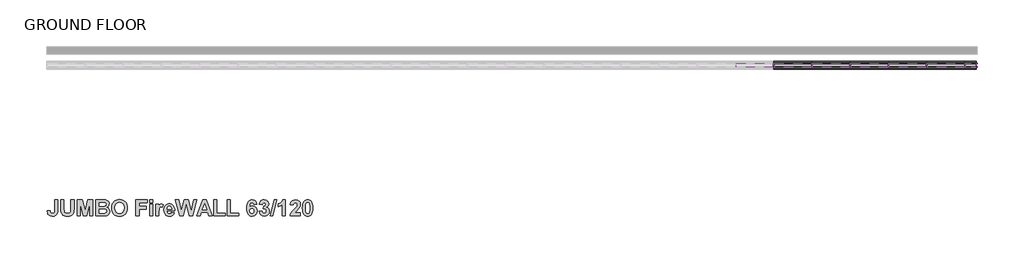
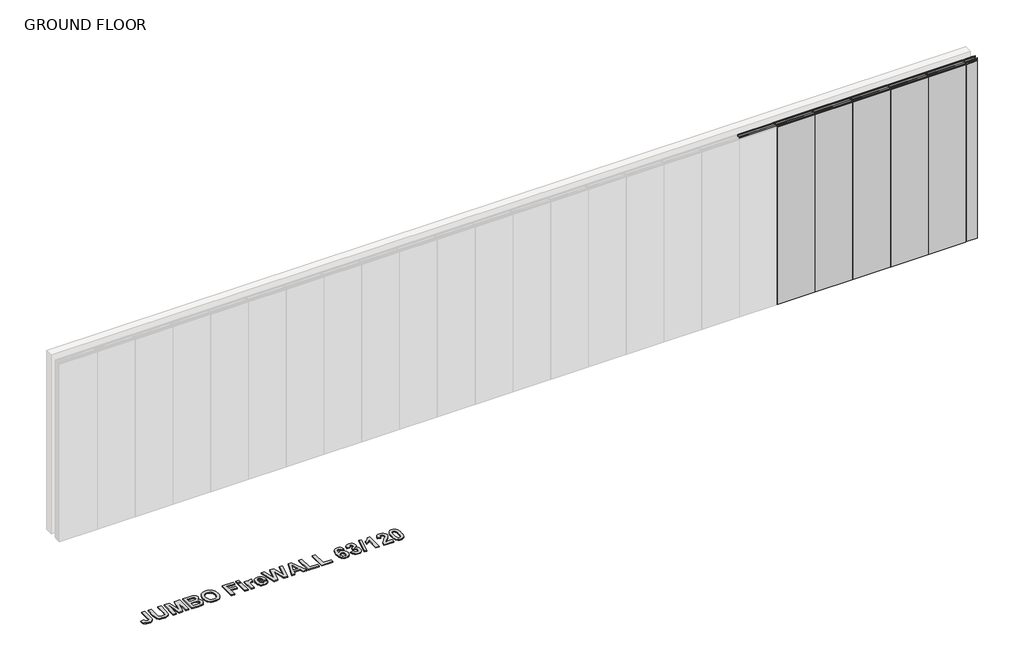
# One storey, part 2 of 2: 20 members, 6 plates, 1 proxy.
"""IFC4 building model written with IfcOpenShell, lengths in millimetres."""

import ifcopenshell
import ifcopenshell.guid

model = None  # the IFC model being written
_history = None  # IfcOwnerHistory: only IFC2X3 demands one
_inside = {}  # id of a spatial element -> (the spatial element, [elements in it])
_under = {}  # id of a project, library or spatial element -> (it, [spatial elements below it])
_declared = {}  # id of a project -> (the project, [libraries it declares])
_typed = {}  # id of a type object -> (the type object, [elements of that type])
_made_of = {}  # id of a material, layer set ... -> (it, [elements and type objects made of it])


def new_model(schema):
    """Start an empty IFC model of exactly this schema.

    Asked for "IFC4X3", IfcOpenShell would pick the latest addendum, in which some entities
    have other attributes; the version numbers below select the first issue.
    IFC2X3 requires an IfcOwnerHistory on every rooted entity: one is made here for all.
    """
    global model, _history
    if schema == "IFC4X3":
        model = ifcopenshell.file(schema_version=(4, 3, 0, 0))
    else:
        model = ifcopenshell.file(schema=schema)
    _inside.clear()
    _under.clear()
    _declared.clear()
    _typed.clear()
    _made_of.clear()
    _history = None
    if model.schema == "IFC2X3":
        org = make("IfcOrganization", Name="unknown")
        user = make(
            "IfcPersonAndOrganization",
            ThePerson=make("IfcPerson", FamilyName="unknown"),
            TheOrganization=org,
        )
        app = make(
            "IfcApplication",
            ApplicationDeveloper=org,
            Version="unknown",
            ApplicationFullName="unknown",
            ApplicationIdentifier="unknown",
        )
        _history = make(
            "IfcOwnerHistory",
            OwningUser=user,
            OwningApplication=app,
            ChangeAction="ADDED",
            CreationDate=0,
        )
    return model


def make(cls, **values):
    """One entity of the class cls with the attributes given. An attribute that is None is left unset."""
    return model.create_entity(
        cls, **{name: value for name, value in values.items() if value is not None}
    )


def rooted(cls, **values):
    """An entity with a GlobalId (a new one), such as an element, a storey or a relation."""
    return make(cls, GlobalId=ifcopenshell.guid.new(), OwnerHistory=_history, **values)


def si_unit(unit_type, name, prefix=None):
    """IfcSIUnit, for example si_unit("LENGTHUNIT", "METRE", prefix="MILLI")."""
    return make("IfcSIUnit", UnitType=unit_type, Prefix=prefix, Name=name)


def assignment(units):
    """IfcUnitAssignment: the units of a project."""
    return None if units is None else make("IfcUnitAssignment", Units=units)


def point(xyz):
    """IfcCartesianPoint."""
    return None if xyz is None else make("IfcCartesianPoint", Coordinates=xyz)


def direction(xyz):
    """IfcDirection."""
    return None if xyz is None else make("IfcDirection", DirectionRatios=xyz)


def frame(location, z_axis=None, x_axis=None):
    """IfcAxis2Placement3D, a coordinate frame: its origin and axes. An axis left out is left unset."""
    return make(
        "IfcAxis2Placement3D",
        Location=point(location),
        Axis=direction(z_axis),
        RefDirection=direction(x_axis),
    )


def origin():
    """The frame at (0, 0, 0) with its axes left unset."""
    return frame((0.0, 0.0, 0.0))


def origin_with_axes():
    """The frame at (0, 0, 0) with the z axis (0, 0, 1) and the x axis (1, 0, 0) written out."""
    return frame((0.0, 0.0, 0.0), z_axis=(0.0, 0.0, 1.0), x_axis=(1.0, 0.0, 0.0))


def place(relative_to, where):
    """IfcLocalPlacement: puts the frame where relative to a parent placement (None: the world)."""
    return make(
        "IfcLocalPlacement", PlacementRelTo=relative_to, RelativePlacement=where
    )


def context(
    kind, dimensions, precision=None, world=None, true_north=None, identifier=None
):
    """IfcGeometricRepresentationContext, for example the 3D "Model" context."""
    return make(
        "IfcGeometricRepresentationContext",
        ContextIdentifier=identifier,
        ContextType=kind,
        CoordinateSpaceDimension=dimensions,
        Precision=precision,
        WorldCoordinateSystem=world,
        TrueNorth=true_north,
    )


def project(units=None, contexts=None):
    """IfcProject with its units and contexts."""
    return rooted(
        "IfcProject",
        Name="project",
        RepresentationContexts=contexts,
        UnitsInContext=assignment(units),
    )


def spatial(cls, under=None, at=None, **own):
    """A site, building, storey or space (cls), placed at a placement, below another one or the project."""
    s = rooted(cls, ObjectPlacement=at, **own)
    if under is not None:
        _under.setdefault(under.id(), (under, []))[1].append(s)
    return s


def polyline(points):
    """IfcPolyline through the points."""
    return make("IfcPolyline", Points=[point(p) for p in points])


def outline(outer, holes=None, kind="AREA"):
    """IfcArbitraryClosedProfileDef: a profile drawn as a closed curve; with holes, ...WithVoids."""
    if holes is None:
        return make("IfcArbitraryClosedProfileDef", ProfileType=kind, OuterCurve=outer)
    return make(
        "IfcArbitraryProfileDefWithVoids",
        ProfileType=kind,
        OuterCurve=outer,
        InnerCurves=holes,
    )


def extrude(swept, where, along, depth):
    """IfcExtrudedAreaSolid: the profile swept, set in the frame where, extruded along a direction by depth."""
    return make(
        "IfcExtrudedAreaSolid",
        SweptArea=swept,
        Position=where,
        ExtrudedDirection=direction(along),
        Depth=depth,
    )


def shape(context_of_items, identifier, shape_type, items):
    """IfcShapeRepresentation: the items that make up one representation, for example the "Body"."""
    return make(
        "IfcShapeRepresentation",
        ContextOfItems=context_of_items,
        RepresentationIdentifier=identifier,
        RepresentationType=shape_type,
        Items=items,
    )


def source(mapping_origin, context_of_items, identifier, shape_type, items):
    """IfcRepresentationMap: a shape defined once, which mapped items show again and again."""
    return make(
        "IfcRepresentationMap",
        MappingOrigin=mapping_origin,
        MappedRepresentation=shape(context_of_items, identifier, shape_type, items),
    )


def transform(
    local_origin,
    x_axis=None,
    y_axis=None,
    z_axis=None,
    scale=None,
    scale2=None,
    scale3=None,
    uniform=True,
):
    """IfcCartesianTransformationOperator3D, or its non-uniform kind. x_axis, y_axis, z_axis: its Axis1, 2, 3."""
    if uniform:
        return make(
            "IfcCartesianTransformationOperator3D",
            Axis1=direction(x_axis),
            Axis2=direction(y_axis),
            LocalOrigin=point(local_origin),
            Scale=scale,
            Axis3=direction(z_axis),
        )
    return make(
        "IfcCartesianTransformationOperator3DnonUniform",
        Axis1=direction(x_axis),
        Axis2=direction(y_axis),
        LocalOrigin=point(local_origin),
        Scale=scale,
        Axis3=direction(z_axis),
        Scale2=scale2,
        Scale3=scale3,
    )


def mapped(mapping_source, mapping_target):
    """IfcMappedItem: shows the shape of a source again, moved by a transform."""
    return make(
        "IfcMappedItem", MappingSource=mapping_source, MappingTarget=mapping_target
    )


def made_of(thing, what):
    """Note that an element or type object is made of a material, layer set ...; save() writes the relation."""
    if what is not None:
        _made_of.setdefault(what.id(), (what, []))[1].append(thing)
    return thing


def element(
    cls,
    number,
    at=None,
    inside=None,
    cuts=None,
    type_object=None,
    material=None,
    context=None,
    identifier="Body",
    shape_type=None,
    held_by="IfcProductDefinitionShape",
    body=None,
    shapes=None,
    **own,
):
    """One element of the class cls, such as IfcWall. Its Tag is "e" and its number.

    at: its placement. inside: the storey or other place that contains it. cuts: it is an
    opening in that element (IfcRelVoidsElement). A single representation is given by context,
    identifier, shape_type and body (its items); several are given by shapes. held_by: the class
    of the entity that holds the representations. save() writes the other relations.
    """
    e = rooted(cls, Tag="e%d" % number, ObjectPlacement=at, **own)
    if body is not None:
        shapes = [shape(context, identifier, shape_type, body)]
    if shapes is not None:
        e.Representation = make(held_by, Representations=shapes)
    if inside is not None:
        _inside.setdefault(inside.id(), (inside, []))[1].append(e)
    if cuts is not None:
        rooted(
            "IfcRelVoidsElement", RelatingBuildingElement=cuts, RelatedOpeningElement=e
        )
    if type_object is not None:
        _typed.setdefault(type_object.id(), (type_object, []))[1].append(e)
    return made_of(e, material)


def aggregate(whole, parts):
    """IfcRelAggregates: a whole, such as a stair, and the parts it consists of."""
    return rooted("IfcRelAggregates", RelatingObject=whole, RelatedObjects=parts)


def save(model, path):
    """Write the relations noted so far, then the file.

    IfcRelAggregates (storeys below a building ...), IfcRelContainedInSpatialStructure (elements
    in a storey), IfcRelDefinesByType, IfcRelAssociatesMaterial and IfcRelDeclares: one each for
    every whole, place, type object, material and project.
    """
    for whole, parts in _under.values():
        aggregate(whole, parts)
    for where, things in _inside.values():
        rooted(
            "IfcRelContainedInSpatialStructure",
            RelatedElements=things,
            RelatingStructure=where,
        )
    for kind, things in _typed.values():
        rooted("IfcRelDefinesByType", RelatedObjects=things, RelatingType=kind)
    for what, things in _made_of.values():
        rooted("IfcRelAssociatesMaterial", RelatedObjects=things, RelatingMaterial=what)
    for by, libraries in _declared.values():
        rooted("IfcRelDeclares", RelatingContext=by, RelatedDefinitions=libraries)
    model.write(path)


def rectangular_mullion_stud_mullion_63mm_b2ef130e(model_context):
    return source(origin(), model_context, "Body", "SweptSolid", [
        extrude(outline(polyline([(0.0, 23.5), (-1.6, 23.5), (-1.6, 29.9), (-17.4, 29.9), (-17.4, -29.9), (-1.6, -29.9), (-1.6, -23.5), (0.0, -23.5), (0.0, -31.5), (-19.0, -31.5), (-19.0, 31.5), (0.0, 31.5), (0.0, 23.5)])), frame((0.0, 0.0, -161.9999997), z_axis=(0.0, 0.0, 1.0), x_axis=(1.0, 0.0, 0.0)), (0.0, 0.0, 1.0), 161.9999997),
    ])


def rectangular_mullion_stud_mullion_63mm_af775e70(model_context):
    return source(origin(), model_context, "Body", "SweptSolid", [
        extrude(outline(polyline([(-19.0, 23.5), (-19.0, 31.5), (0.0, 31.5), (0.0, -31.5), (-19.0, -31.5), (-19.0, -23.5), (-17.4, -23.5), (-17.4, -29.9), (-1.6, -29.9), (-1.6, 29.9), (-17.4, 29.9), (-17.4, 23.5), (-19.0, 23.5)])), frame((0.0, 0.0, -581.0000003), z_axis=(0.0, 0.0, 1.0), x_axis=(1.0, 0.0, 0.0)), (0.0, 0.0, 1.0), 581.0000003),
    ])


def rectangular_mullion_stud_mullion_63mm_c22ba0a2(model_context):
    return source(origin(), model_context, "Body", "SweptSolid", [
        extrude(outline(polyline([(0.0, 23.5), (-1.6, 23.5), (-1.6, 29.9), (-17.4, 29.9), (-17.4, -29.9), (-1.6, -29.9), (-1.6, -23.5), (0.0, -23.5), (0.0, -31.5), (-19.0, -31.5), (-19.0, 31.5), (0.0, 31.5), (0.0, 23.5)])), frame((0.0, 0.0, -3000.0), z_axis=(0.0, 0.0, 1.0), x_axis=(1.0, 0.0, 0.0)), (0.0, 0.0, 1.0), 3000.0),
    ])


def rectangular_mullion_stud_mullion_63mm_ab3eab4e(model_context):
    return source(origin(), model_context, "Body", "SweptSolid", [
        extrude(outline(polyline([(0.0, 23.5), (-1.6, 23.5), (-1.6, 29.9), (-17.4, 29.9), (-17.4, -29.9), (-1.6, -29.9), (-1.6, -23.5), (0.0, -23.5), (0.0, -31.5), (-19.0, -31.5), (-19.0, 31.5), (0.0, 31.5), (0.0, 23.5)])), frame((0.0, 0.0, -581.0000003), z_axis=(0.0, 0.0, 1.0), x_axis=(1.0, 0.0, 0.0)), (0.0, 0.0, 1.0), 581.0000003),
    ])


def rectangular_mullion_stud_mullion_63mm_06861ceb(model_context):
    return source(origin(), model_context, "Body", "SweptSolid", [
        extrude(outline(polyline([(-19.0, 23.5), (-19.0, 31.5), (0.0, 31.5), (0.0, -31.5), (-19.0, -31.5), (-19.0, -23.5), (-17.4, -23.5), (-17.4, -29.9), (-1.6, -29.9), (-1.6, 29.9), (-17.4, 29.9), (-17.4, 23.5), (-19.0, 23.5)])), frame((0.0, 0.0, -161.9999997), z_axis=(0.0, 0.0, 1.0), x_axis=(1.0, 0.0, 0.0)), (0.0, 0.0, 1.0), 161.9999997),
    ])


def rectangular_mullion_stud_mullion_63mm_08592bac(model_context):
    return source(origin(), model_context, "Body", "SweptSolid", [
        extrude(outline(polyline([(9.5, 23.5), (7.9, 23.5), (7.9, 29.9), (-7.9, 29.9), (-7.9, -29.9), (7.9, -29.9), (7.9, -23.5), (9.5, -23.5), (9.5, -31.5), (-9.5, -31.5), (-9.5, 31.5), (9.5, 31.5), (9.5, 23.5)])), frame((0.0, 0.0, -3000.0), z_axis=(0.0, 0.0, 1.0), x_axis=(1.0, 0.0, 0.0)), (0.0, 0.0, 1.0), 3000.0),
    ])


def plate_2_layer_30mm_drywall_panels_124mm_1495f93a(model_context):
    return source(origin(), model_context, "Body", "SweptSolid", [
        extrude(outline(polyline([(299.2000002, 46.5), (-299.2000002, 46.5), (-299.2000002, 61.5), (299.2000002, 61.5), (299.2000002, 46.5)])), origin_with_axes(), (0.0, 0.0, 1.0), 2979.4),
        extrude(outline(polyline([(299.2000002, -46.5), (-299.2000002, -46.5), (-299.2000002, -31.5), (299.2000002, -31.5), (299.2000002, -46.5)])), origin_with_axes(), (0.0, 0.0, 1.0), 2979.4),
        extrude(outline(polyline([(299.2000002, 31.5), (-299.2000002, 31.5), (-299.2000002, 46.5), (299.2000002, 46.5), (299.2000002, 31.5)])), origin_with_axes(), (0.0, 0.0, 1.0), 2979.4),
        extrude(outline(polyline([(299.2000002, -46.5), (299.2000002, -61.5), (-299.2000002, -61.5), (-299.2000002, -46.5), (299.2000002, -46.5)])), origin_with_axes(), (0.0, 0.0, 1.0), 2979.4),
    ])


def plate_2_layer_30mm_drywall_panels_124mm_3bb38d6b(model_context):
    return source(origin(), model_context, "Body", "SweptSolid", [
        extrude(outline(polyline([(89.6999998, 46.5), (-89.6999998, 46.5), (-89.6999998, 61.5), (89.6999998, 61.5), (89.6999998, 46.5)])), origin_with_axes(), (0.0, 0.0, 1.0), 2979.4),
        extrude(outline(polyline([(89.6999998, -46.5), (-89.6999998, -46.5), (-89.6999998, -31.5), (89.6999998, -31.5), (89.6999998, -46.5)])), origin_with_axes(), (0.0, 0.0, 1.0), 2979.4),
        extrude(outline(polyline([(89.6999998, 31.5), (-89.6999998, 31.5), (-89.6999998, 46.5), (89.6999998, 46.5), (89.6999998, 31.5)])), origin_with_axes(), (0.0, 0.0, 1.0), 2979.4),
        extrude(outline(polyline([(89.6999998, -46.5), (89.6999998, -61.5), (-89.6999998, -61.5), (-89.6999998, -46.5), (89.6999998, -46.5)])), origin_with_axes(), (0.0, 0.0, 1.0), 2979.4),
    ])


model = new_model("IFC4")

# Units and contexts
model_context = context("Model", 3, world=origin())
ifc_project = project(units=[si_unit("LENGTHUNIT", "METRE", prefix="MILLI")], contexts=[model_context])

# Site, building, storey
site = spatial("IfcSite", under=ifc_project)
building = spatial("IfcBuilding", under=site)
storey = spatial("IfcBuildingStorey", under=building, Name="GROUND FLOOR", Elevation=0.0)

# Proxy
placement = place(None, origin())
element("IfcBuildingElementProxy", 1, Name="600mm Arial", ObjectType="600mm Arial", at=placement, inside=storey, context=model_context, shape_type="SweptSolid", body=[
    extrude(outline(polyline([(61762.9500241, -45331.743976), (61811.5338051, -45331.743976), (61811.5338051, -45492.994051), (61810.1104521, -45520.9866592), (61805.8403932, -45541.7043522), (61795.149431, -45561.7261838), (61778.2589759, -45577.3830664), (61755.0741377, -45587.4888724), (61725.5000263, -45590.8574744), (61691.5293357, -45585.4566406), (61677.8651473, -45578.7055985), (61666.4150635, -45569.2541395), (61657.3530497, -45557.1892463), (61650.8530712, -45542.5979016), (61645.5392201, -45505.8358577), (61694.1230011, -45501.7872093), (61696.3529207, -45520.417318), (61701.1448757, -45532.6581534), (61712.5633294, -45542.9062947), (61728.726293, -45546.3223418), (61744.7073837, -45543.8710117), (61755.200658, -45536.5170215), (61761.0126826, -45521.4611102), (61762.9500241, -45495.9040171), (61762.9500241, -45331.743976)])), origin_with_axes(), (0.0, 0.0, 1.0), 15.0),
    extrude(outline(polyline([(61860.117586, -45331.743976), (61908.701367, -45331.743976), (61908.701367, -45469.3347619), (61910.7889513, -45511.8455702), (61916.8777389, -45525.8814119), (61927.9324469, -45536.8649522), (61943.9530752, -45543.9579944), (61964.9396238, -45546.3223418), (61985.9024499, -45544.0924222), (62000.9662687, -45537.4026633), (62010.6687913, -45527.4629151), (62015.547729, -45515.4830277), (62018.0148741, -45472.307988), (62018.0148741, -45331.743976), (62066.598655, -45331.743976), (62066.598655, -45465.539154), (62062.3602262, -45530.3807887), (62056.3346987, -45547.8326775), (62046.7349738, -45562.3587851), (62033.4266236, -45574.085632), (62016.2752205, -45583.1397383), (61994.2844173, -45588.9280404), (61966.457867, -45590.8574744), (61933.8630842, -45588.754075), (61910.2196101, -45582.4438769), (61893.0602995, -45572.7650768), (61879.9180071, -45560.5558714), (61870.682028, -45546.7493477), (61865.2416567, -45532.2785926), (61861.3986037, -45505.1716263), (61860.117586, -45467.6267383), (61860.117586, -45331.743976)])), origin_with_axes(), (0.0, 0.0, 1.0), 15.0),
    extrude(outline(polyline([(62115.182436, -45586.808826), (62115.182436, -45331.743976), (62198.432769, -45331.743976), (62238.6662126, -45505.7093374), (62278.8996562, -45331.743976), (62362.1499892, -45331.743976), (62362.1499892, -45586.808826), (62313.5662082, -45586.808826), (62311.541884, -45386.0211687), (62267.1332717, -45586.808826), (62210.2624136, -45586.808826), (62165.7905412, -45386.0211687), (62163.7662169, -45586.808826), (62115.182436, -45586.808826)])), origin_with_axes(), (0.0, 0.0, 1.0), 15.0),
    extrude(outline(polyline([(62410.7337701, -45331.743976), (62515.4292877, -45331.743976), (62561.7673339, -45334.2743812), (62589.0957107, -45344.8704532), (62600.1425112, -45354.2645828), (62609.1808025, -45366.3156378), (62615.20633, -45380.5096298), (62617.2148391, -45396.3325702), (62614.8188617, -45413.570956), (62607.6309292, -45429.3543588), (62596.3310883, -45442.5282812), (62581.5993851, -45451.9382257), (62600.2294939, -45461.0793147), (62613.9885724, -45474.9649136), (62622.4812451, -45492.6619353), (62625.312136, -45513.2372931), (62623.2799042, -45530.3254361), (62617.1832091, -45546.9233131), (62607.5676691, -45561.6312936), (62594.9789029, -45573.0497474), (62579.2666678, -45580.9493563), (62560.2807208, -45585.1008024), (62497.9062312, -45586.808826), (62410.7337701, -45586.808826), (62410.7337701, -45331.743976)]), holes=[polyline([(62459.3175511, -45376.2791085), (62459.3175511, -45432.9601863), (62496.3879881, -45432.9601863), (62537.5070735, -45432.1378046), (62550.4516779, -45429.1803934), (62560.3123509, -45423.3446463), (62566.5513814, -45414.9152338), (62568.6310582, -45404.1768265), (62566.836052, -45393.9049626), (62561.4510333, -45385.7364982), (62552.5392623, -45380.0193638), (62540.163999, -45377.1014902), (62491.8332586, -45376.2791085), (62459.3175511, -45376.2791085)]), polyline([(62459.3175511, -45477.4953188), (62459.3175511, -45542.2736934), (62510.6847778, -45542.2736934), (62548.7673769, -45540.7554503), (62560.0118653, -45537.3631257), (62568.9473589, -45531.1082802), (62574.783106, -45522.117434), (62576.728355, -45510.5171074), (62575.2259269, -45500.4587465), (62570.7186425, -45492.045149), (62553.3853665, -45480.974626), (62504.1689843, -45477.4953188), (62459.3175511, -45477.4953188)])]), origin_with_axes(), (0.0, 0.0, 1.0), 15.0),
    extrude(outline(polyline([(62657.7013233, -45460.8579042), (62660.5638442, -45425.0842999), (62669.1514071, -45395.5734486), (62679.2493055, -45377.1410278), (62692.4627655, -45360.6854861), (62707.9377752, -45347.2189856), (62724.8203227, -45337.7536884), (62750.0294851, -45330.2099178), (62778.844475, -45327.6953275), (62805.1369671, -45329.8758252), (62828.6618285, -45336.4173182), (62849.4190591, -45347.3198065), (62867.408659, -45362.58329), (62881.9387205, -45381.7293642), (62892.3173358, -45404.2796242), (62898.544505, -45430.23407), (62900.620228, -45459.5927016), (62898.56032, -45488.7516685), (62892.3805959, -45514.5499408), (62882.0810558, -45536.9875187), (62867.6616995, -45556.0644021), (62849.7907124, -45571.2863712), (62829.1362795, -45582.1592063), (62805.6984008, -45588.6829073), (62779.4770763, -45590.8574744), (62752.9789887, -45588.6927917), (62729.3434221, -45582.1987439), (62708.5703765, -45571.3753308), (62690.6598518, -45556.2225524), (62676.2404955, -45537.2741661), (62665.9409554, -45515.0639294), (62659.7612313, -45489.5918421), (62657.7013233, -45460.8579042)]), holes=[polyline([(62706.2851042, -45459.0866206), (62711.4487125, -45496.837104), (62717.9032227, -45511.8099864), (62726.9395371, -45524.1812958), (62750.3853234, -45540.7870803), (62779.4138162, -45546.3223418), (62808.3790489, -45540.8266179), (62831.6350547, -45524.3394461), (62840.5606639, -45511.9740673), (62846.936099, -45496.8608266), (62852.0364471, -45458.3907591), (62847.0705268, -45420.4979404), (62840.8631264, -45405.6792546), (62832.1727658, -45393.6123845), (62809.0511878, -45377.5759412), (62779.4138162, -45372.2304601), (62749.7131845, -45377.6392013), (62726.401826, -45393.865425), (62717.6007602, -45406.0548616), (62711.3142847, -45420.9882064), (62706.2851042, -45459.0866206)])]), origin_with_axes(), (0.0, 0.0, 1.0), 15.0),
    extrude(outline(polyline([(63038.2742741, -45586.808826), (63038.2742741, -45331.743976), (63212.3661558, -45331.743976), (63212.3661558, -45376.2791085), (63086.858055, -45376.2791085), (63086.858055, -45432.9601863), (63196.1715621, -45432.9601863), (63196.1715621, -45477.4953188), (63086.858055, -45477.4953188), (63086.858055, -45586.808826), (63038.2742741, -45586.808826)])), origin_with_axes(), (0.0, 0.0, 1.0), 15.0),
    extrude(outline(polyline([(63252.8526399, -45376.2791085), (63252.8526399, -45331.743976), (63301.4364209, -45331.743976), (63301.4364209, -45376.2791085), (63252.8526399, -45376.2791085)])), origin_with_axes(), (0.0, 0.0, 1.0), 15.0),
    extrude(outline(polyline([(63252.8526399, -45586.808826), (63252.8526399, -45400.570999), (63301.4364209, -45400.570999), (63301.4364209, -45586.808826), (63252.8526399, -45586.808826)])), origin_with_axes(), (0.0, 0.0, 1.0), 15.0),
    extrude(outline(polyline([(63398.6039828, -45586.808826), (63350.0202018, -45586.808826), (63350.0202018, -45400.570999), (63398.6039828, -45400.570999), (63398.6039828, -45426.5076529), (63418.0248431, -45402.3106526), (63437.6354839, -45396.5223506), (63452.8021004, -45399.0843859), (63467.4310058, -45406.7704919), (63453.2607363, -45453.0136479), (63441.557612, -45447.0830106), (63430.7401295, -45445.1061315), (63413.628264, -45450.641393), (63407.381326, -45458.3986666), (63402.6210011, -45470.5999645), (63398.6039828, -45531.0766501), (63398.6039828, -45586.808826)])), origin_with_axes(), (0.0, 0.0, 1.0), 15.0),
    extrude(outline(polyline([(63592.9391066, -45530.1277482), (63641.5228875, -45538.225045), (63629.6932429, -45560.8958946), (63612.5497473, -45577.4146964), (63590.266366, -45587.4967799), (63563.0170644, -45590.8574744), (63541.0143999, -45588.8766415), (63522.0719443, -45582.9341429), (63506.1896976, -45573.0299786), (63493.3676597, -45559.1641485), (63479.9881419, -45530.4598639), (63475.5283026, -45495.0816354), (63477.0070082, -45473.241075), (63481.4431249, -45453.8992898), (63488.8366528, -45437.0562798), (63499.1875918, -45422.712045), (63511.8000805, -45411.2540537), (63525.9782574, -45403.0697742), (63541.7221226, -45398.1592065), (63559.0316761, -45396.5223506), (63578.2667098, -45398.2026978), (63595.3588066, -45403.2437395), (63610.3079664, -45411.6454757), (63623.1141893, -45423.4079064), (63633.3188392, -45438.6417368), (63640.4632803, -45457.4576722), (63644.5475126, -45479.8557125), (63645.5715359, -45505.8358577), (63524.1120836, -45505.8358577), (63527.227645, -45526.3005102), (63535.5621673, -45541.6410921), (63547.8504479, -45551.225002), (63562.827284, -45554.4196387), (63573.0279802, -45552.9804707), (63581.4890228, -45548.6629667), (63588.1471516, -45541.1508261), (63592.9391066, -45530.1277482)]), holes=[polyline([(63596.987755, -45477.4953188), (63594.0303438, -45458.2879614), (63586.1702725, -45444.3153799), (63574.7518188, -45435.7989847), (63561.1192604, -45432.9601863), (63546.7275805, -45435.9492275), (63535.0560863, -45444.9163511), (63527.4016104, -45459.0708055), (63524.9344653, -45477.4953188), (63596.987755, -45477.4953188)])]), origin_with_axes(), (0.0, 0.0, 1.0), 15.0),
    extrude(outline(polyline([(64232.6255557, -45586.808826), (64181.5746297, -45586.808826), (64161.5844281, -45530.1277482), (64065.2392479, -45530.1277482), (64045.5020869, -45586.808826), (63993.7552994, -45586.808826), (64086.8742129, -45331.743976), (64138.6210004, -45331.743976), (64232.6255557, -45586.808826)]), holes=[polyline([(64146.0224358, -45485.5926156), (64113.1904276, -45392.4737021), (64080.8012403, -45485.5926156), (64146.0224358, -45485.5926156)])]), origin_with_axes(), (0.0, 0.0, 1.0), 15.0),
    extrude(outline(polyline([(63721.9265146, -45586.808826), (63657.7174812, -45331.743976), (63707.5664647, -45331.743976), (63748.8120704, -45506.9745401), (63793.1574226, -45331.743976), (63858.5051384, -45331.743976), (63902.6607101, -45509.8845061), (63943.9063158, -45331.743976), (63993.7552994, -45331.743976), (63930.495168, -45586.808826), (63872.9917085, -45586.808826), (63825.7363903, -45396.1427898), (63777.5321701, -45586.808826), (63721.9265146, -45586.808826)])), origin_with_axes(), (0.0, 0.0, 1.0), 15.0),
    extrude(outline(polyline([(64256.9174462, -45586.808826), (64256.9174462, -45331.743976), (64305.5012272, -45331.743976), (64305.5012272, -45542.2736934), (64435.0579764, -45542.2736934), (64435.0579764, -45586.808826), (64256.9174462, -45586.808826)])), origin_with_axes(), (0.0, 0.0, 1.0), 15.0),
    extrude(outline(polyline([(64471.4958121, -45586.808826), (64471.4958121, -45331.743976), (64520.079593, -45331.743976), (64520.079593, -45542.2736934), (64649.6363422, -45542.2736934), (64649.6363422, -45586.808826), (64471.4958121, -45586.808826)])), origin_with_axes(), (0.0, 0.0, 1.0), 15.0),
    extrude(outline(polyline([(64933.0417311, -45399.4323166), (64884.4579502, -45404.6196474), (64881.484724, -45392.0229737), (64875.8545723, -45383.2060929), (64867.8521657, -45378.0108546), (64857.7621747, -45376.2791085), (64844.1612464, -45379.639803), (64832.8376829, -45389.7218864), (64824.5347907, -45410.5581922), (64819.9958762, -45446.1815537), (64840.0177078, -45430.1925555), (64864.4044885, -45424.8628894), (64892.2310388, -45430.5563013), (64915.7400852, -45447.6365368), (64931.7528059, -45473.715526), (64937.0903795, -45506.4051989), (64931.6341932, -45540.8424329), (64924.8139603, -45555.232136), (64915.2656342, -45567.7358963), (64903.5743711, -45577.8515867), (64890.3253274, -45585.0770799), (64859.1538976, -45590.8574744), (64841.6229337, -45588.9913005), (64825.7209181, -45583.3927789), (64811.447851, -45574.0619095), (64798.8037322, -45560.9986923), (64788.4527932, -45543.6851851), (64781.0592653, -45521.6034455), (64776.6231486, -45494.7534734), (64775.144443, -45463.135269), (64776.6883856, -45430.6828215), (64781.3202134, -45403.1014042), (64789.0399263, -45380.391017), (64799.8475244, -45362.55166), (64813.1222676, -45349.0732982), (64828.2434159, -45339.445897), (64845.2109692, -45333.6694562), (64864.0249277, -45331.743976), (64889.3447953, -45336.077295), (64909.888523, -45349.077252), (64924.7546539, -45370.3326561), (64933.0417311, -45399.4323166)]), holes=[polyline([(64823.728224, -45505.3297766), (64826.3535194, -45522.7500353), (64834.2294058, -45535.6630097), (64845.4738942, -45543.6575088), (64858.2049956, -45546.3223418), (64870.0979003, -45544.1398673), (64879.8399606, -45537.5924437), (64886.3399391, -45526.0632847), (64888.5065986, -45508.9356041), (64886.1738812, -45491.1832298), (64879.1757292, -45478.9186718), (64868.6824549, -45471.7781844), (64855.8643707, -45469.398022), (64843.4258474, -45471.6753867), (64833.0590934, -45478.5074809), (64826.0609413, -45489.7677843), (64823.728224, -45505.3297766)])]), origin_with_axes(), (0.0, 0.0, 1.0), 15.0),
    extrude(outline(polyline([(64969.4795668, -45515.5146578), (65018.0633478, -45509.8845061), (65021.8115106, -45525.5097586), (65029.0073505, -45536.9598424), (65038.860116, -45543.981717), (65050.5790553, -45546.3223418), (65063.1520065, -45543.6416938), (65073.5424831, -45535.5997495), (65080.5169125, -45523.0188909), (65082.8417224, -45506.7214995), (65080.7146005, -45491.3018425), (65074.3332347, -45479.4563829), (65064.8837526, -45471.9126122), (65053.5522815, -45469.398022), (65034.2579414, -45473.0038495), (65038.4963702, -45432.9601863), (65052.3266165, -45431.2205327), (65062.44033, -45424.9894097), (65068.6319154, -45415.1208292), (65070.6957771, -45402.4688029), (65069.1538114, -45391.7224881), (65064.5279143, -45383.3958733), (65057.3399819, -45378.0582997), (65048.1119102, -45376.2791085), (65038.7256882, -45378.3429703), (65030.8102643, -45384.5345557), (65025.0456848, -45394.6957143), (65022.1119962, -45408.6682958), (64973.5282152, -45401.3933807), (64979.0871993, -45379.655618), (64986.907733, -45362.7730704), (64997.6303253, -45349.8600961), (65011.895485, -45340.0310532), (65028.8887378, -45333.8157453), (65047.7956096, -45331.743976), (65078.4451432, -45337.4848329), (65091.2315973, -45344.6609041), (65102.3258429, -45354.7074037), (65115.0411293, -45374.7292353), (65119.2795581, -45397.218212), (65117.0061471, -45413.1637189), (65110.1859142, -45427.4091097), (65098.8188593, -45439.9543846), (65082.9049825, -45450.7995433), (65102.7686638, -45458.3512215), (65118.2041359, -45471.6437567), (65128.1201615, -45489.5068363), (65131.4255033, -45510.770148), (65125.5660337, -45541.5382944), (65107.9876246, -45567.4195957), (65095.5510782, -45577.6736676), (65081.6793175, -45584.9980047), (65049.6301534, -45590.8574744), (65019.368088, -45585.646421), (64994.7519893, -45570.0132611), (64977.5373261, -45545.9665036), (64969.4795668, -45515.5146578)])), origin_with_axes(), (0.0, 0.0, 1.0), 15.0),
    extrude(outline(polyline([(65146.7344551, -45586.808826), (65207.4641813, -45331.743976), (65244.7876589, -45331.743976), (65184.0579327, -45586.808826), (65146.7344551, -45586.808826)])), origin_with_axes(), (0.0, 0.0, 1.0), 15.0),
    extrude(outline(polyline([(65382.4417049, -45586.808826), (65333.857924, -45586.808826), (65333.857924, -45404.4931271), (65305.8020557, -45428.3738267), (65273.1281978, -45445.1061315), (65273.1281978, -45396.5223506), (65292.5965032, -45387.4366142), (65313.677942, -45372.7049111), (65332.1340854, -45353.6873341), (65343.7265045, -45331.743976), (65382.4417049, -45331.743976), (65382.4417049, -45586.808826)])), origin_with_axes(), (0.0, 0.0, 1.0), 15.0),
    extrude(outline(polyline([(65617.2633128, -45538.225045), (65617.2633128, -45586.808826), (65455.3173763, -45586.808826), (65460.4888921, -45562.3034325), (65470.8161085, -45539.1423169), (65489.9997434, -45512.96053), (65521.7405143, -45479.3931228), (65559.3170324, -45438.6535981), (65566.338907, -45423.9456175), (65568.6795319, -45409.4274174), (65566.7105603, -45395.2808705), (65560.8036455, -45384.8508563), (65551.4332385, -45378.4220455), (65539.0737904, -45376.2791085), (65526.8013249, -45378.3904154), (65517.3123051, -45384.724336), (65510.9230319, -45395.9451019), (65507.9498057, -45412.7169442), (65459.3660247, -45408.288735), (65467.9694026, -45373.1398245), (65475.5922485, -45359.9006651), (65485.4291989, -45349.551703), (65510.0532051, -45336.1959077), (65540.1492126, -45331.743976), (65572.2853594, -45336.7336188), (65596.7037701, -45351.7025474), (65612.1234272, -45374.0887264), (65617.2633128, -45401.3301206), (65611.6331611, -45433.4662673), (65593.7938041, -45465.4126337), (65563.5870913, -45497.29574), (65535.8475237, -45524.9404174), (65526.7380647, -45538.225045), (65617.2633128, -45538.225045)])), origin_with_axes(), (0.0, 0.0, 1.0), 15.0),
    extrude(outline(polyline([(65730.6254684, -45331.743976), (65747.7571027, -45333.3887394), (65762.9039505, -45338.3230296), (65776.0660116, -45346.5468467), (65787.243286, -45358.0601906), (65797.8986644, -45376.1881721), (65805.509649, -45399.4481316), (65810.0762397, -45427.8400694), (65811.5984366, -45461.3639853), (65810.0683322, -45494.8562711), (65805.4780189, -45523.2798389), (65797.8274968, -45546.6346887), (65787.1167658, -45564.9208205), (65775.9948439, -45576.2681065), (65762.8723204, -45584.3733109), (65747.7491952, -45589.2364335), (65730.6254684, -45590.8574744), (65713.3178918, -45589.0782832), (65697.7697376, -45583.7407096), (65683.9810058, -45574.8447536), (65671.9516965, -45562.3904152), (65662.1957981, -45545.3694861), (65655.2272992, -45522.7737579), (65651.0461999, -45494.6032306), (65649.6525001, -45460.8579042), (65651.1826046, -45427.5316762), (65655.7729178, -45399.2267212), (65663.42344, -45375.9430391), (65674.134171, -45357.6806299), (65685.2560929, -45346.3333438), (65698.3786164, -45338.2281394), (65713.5017416, -45333.3650168), (65730.6254684, -45331.743976)]), holes=[polyline([(65730.6254684, -45376.2791085), (65714.4308747, -45381.6245896), (65708.1048616, -45389.0971926), (65703.4236119, -45400.8240395), (65699.5331138, -45424.9735947), (65698.2362811, -45461.3639853), (65699.3907785, -45497.2720174), (65702.8542707, -45519.8479768), (65708.081139, -45533.1009744), (65714.5257649, -45541.0401208), (65730.6254684, -45546.3223418), (65746.820062, -45540.9768607), (65753.1460752, -45533.5042577), (65757.8273249, -45521.7774108), (65761.717823, -45497.7543759), (65763.0146557, -45461.3639853), (65761.8601583, -45425.4954908), (65758.3966661, -45402.9116238), (65753.1697977, -45389.6190887), (65746.7251718, -45381.6245896), (65730.6254684, -45376.2791085)])]), origin_with_axes(), (0.0, 0.0, 1.0), 15.0),
])

# Members
rectangular_mullion_stud_mullion_63mm_shape = rectangular_mullion_stud_mullion_63mm_b2ef130e(model_context)
element("IfcMember", 2, ObjectType="Rectangular Mullion : Stud Mullion - 63mm", at=placement, inside=storey, context=model_context, shape_type="MappedRepresentation", body=[
    mapped(rectangular_mullion_stud_mullion_63mm_shape, transform((76216.5186508, -43221.4010443, 3000.0), x_axis=(0.0, 0.0, 1.0), y_axis=(0.0, -1.0, 0.0), z_axis=(1.0, 0.0, 0.0))),
])
rectangular_mullion_stud_mullion_63mm_2_shape = rectangular_mullion_stud_mullion_63mm_af775e70(model_context)
element("IfcMember", 3, ObjectType="Rectangular Mullion : Stud Mullion - 63mm", at=placement, inside=storey, context=model_context, shape_type="MappedRepresentation", body=[
    mapped(rectangular_mullion_stud_mullion_63mm_2_shape, transform((73054.5186511, -43221.4010443, 0.0), x_axis=(0.0, 0.0, -1.0), y_axis=(0.0, -1.0, 0.0), z_axis=(-1.0, 0.0, 0.0))),
])
element("IfcMember", 4, ObjectType="Rectangular Mullion : Stud Mullion - 63mm", at=placement, inside=storey, context=model_context, shape_type="MappedRepresentation", body=[
    mapped(rectangular_mullion_stud_mullion_63mm_2_shape, transform((73654.5186511, -43221.4010443, 0.0), x_axis=(0.0, 0.0, -1.0), y_axis=(0.0, -1.0, 0.0), z_axis=(-1.0, 0.0, 0.0))),
])
element("IfcMember", 5, ObjectType="Rectangular Mullion : Stud Mullion - 63mm", at=placement, inside=storey, context=model_context, shape_type="MappedRepresentation", body=[
    mapped(rectangular_mullion_stud_mullion_63mm_2_shape, transform((74254.5186511, -43221.4010443, 0.0), x_axis=(0.0, 0.0, -1.0), y_axis=(0.0, -1.0, 0.0), z_axis=(-1.0, 0.0, 0.0))),
])
element("IfcMember", 6, ObjectType="Rectangular Mullion : Stud Mullion - 63mm", at=placement, inside=storey, context=model_context, shape_type="MappedRepresentation", body=[
    mapped(rectangular_mullion_stud_mullion_63mm_2_shape, transform((74854.5186511, -43221.4010443, 0.0), x_axis=(0.0, 0.0, -1.0), y_axis=(0.0, -1.0, 0.0), z_axis=(-1.0, 0.0, 0.0))),
])
element("IfcMember", 7, ObjectType="Rectangular Mullion : Stud Mullion - 63mm", at=placement, inside=storey, context=model_context, shape_type="MappedRepresentation", body=[
    mapped(rectangular_mullion_stud_mullion_63mm_2_shape, transform((75454.5186511, -43221.4010443, 0.0), x_axis=(0.0, 0.0, -1.0), y_axis=(0.0, -1.0, 0.0), z_axis=(-1.0, 0.0, 0.0))),
])
rectangular_mullion_stud_mullion_63mm_3_shape = rectangular_mullion_stud_mullion_63mm_c22ba0a2(model_context)
element("IfcMember", 8, ObjectType="Rectangular Mullion : Stud Mullion - 63mm", at=placement, inside=storey, context=model_context, shape_type="MappedRepresentation", body=[
    mapped(rectangular_mullion_stud_mullion_63mm_3_shape, transform((76235.5186508, -43221.4010443, 0.0), x_axis=(1.0, 0.0, 0.0), y_axis=(0.0, -1.0, 0.0), z_axis=(0.0, 0.0, -1.0))),
])
rectangular_mullion_stud_mullion_63mm_4_shape = rectangular_mullion_stud_mullion_63mm_ab3eab4e(model_context)
element("IfcMember", 9, ObjectType="Rectangular Mullion : Stud Mullion - 63mm", at=placement, inside=storey, context=model_context, shape_type="MappedRepresentation", body=[
    mapped(rectangular_mullion_stud_mullion_63mm_4_shape, transform((73035.5186511, -43221.4010443, 3000.0), x_axis=(0.0, 0.0, 1.0), y_axis=(0.0, -1.0, 0.0), z_axis=(1.0, 0.0, 0.0))),
])
element("IfcMember", 10, ObjectType="Rectangular Mullion : Stud Mullion - 63mm", at=placement, inside=storey, context=model_context, shape_type="MappedRepresentation", body=[
    mapped(rectangular_mullion_stud_mullion_63mm_4_shape, transform((73635.5186511, -43221.4010443, 3000.0), x_axis=(0.0, 0.0, 1.0), y_axis=(0.0, -1.0, 0.0), z_axis=(1.0, 0.0, 0.0))),
])
element("IfcMember", 11, ObjectType="Rectangular Mullion : Stud Mullion - 63mm", at=placement, inside=storey, context=model_context, shape_type="MappedRepresentation", body=[
    mapped(rectangular_mullion_stud_mullion_63mm_4_shape, transform((74235.5186511, -43221.4010443, 3000.0), x_axis=(0.0, 0.0, 1.0), y_axis=(0.0, -1.0, 0.0), z_axis=(1.0, 0.0, 0.0))),
])
element("IfcMember", 12, ObjectType="Rectangular Mullion : Stud Mullion - 63mm", at=placement, inside=storey, context=model_context, shape_type="MappedRepresentation", body=[
    mapped(rectangular_mullion_stud_mullion_63mm_4_shape, transform((74835.5186511, -43221.4010443, 3000.0), x_axis=(0.0, 0.0, 1.0), y_axis=(0.0, -1.0, 0.0), z_axis=(1.0, 0.0, 0.0))),
])
element("IfcMember", 13, ObjectType="Rectangular Mullion : Stud Mullion - 63mm", at=placement, inside=storey, context=model_context, shape_type="MappedRepresentation", body=[
    mapped(rectangular_mullion_stud_mullion_63mm_4_shape, transform((75435.5186511, -43221.4010443, 3000.0), x_axis=(0.0, 0.0, 1.0), y_axis=(0.0, -1.0, 0.0), z_axis=(1.0, 0.0, 0.0))),
])
element("IfcMember", 14, ObjectType="Rectangular Mullion : Stud Mullion - 63mm", at=placement, inside=storey, context=model_context, shape_type="MappedRepresentation", body=[
    mapped(rectangular_mullion_stud_mullion_63mm_4_shape, transform((76035.5186511, -43221.4010443, 3000.0), x_axis=(0.0, 0.0, 1.0), y_axis=(0.0, -1.0, 0.0), z_axis=(1.0, 0.0, 0.0))),
])
rectangular_mullion_stud_mullion_63mm_5_shape = rectangular_mullion_stud_mullion_63mm_06861ceb(model_context)
element("IfcMember", 15, ObjectType="Rectangular Mullion : Stud Mullion - 63mm", at=placement, inside=storey, context=model_context, shape_type="MappedRepresentation", body=[
    mapped(rectangular_mullion_stud_mullion_63mm_5_shape, transform((76054.5186511, -43221.4010443, 0.0), x_axis=(0.0, 0.0, -1.0), y_axis=(0.0, -1.0, 0.0), z_axis=(-1.0, 0.0, 0.0))),
])
rectangular_mullion_stud_mullion_63mm_6_shape = rectangular_mullion_stud_mullion_63mm_08592bac(model_context)
element("IfcMember", 16, ObjectType="Rectangular Mullion : Stud Mullion - 63mm", at=placement, inside=storey, context=model_context, shape_type="MappedRepresentation", body=[
    mapped(rectangular_mullion_stud_mullion_63mm_6_shape, transform((73045.0186511, -43221.4010443, 0.0), x_axis=(1.0, 0.0, 0.0), y_axis=(0.0, -1.0, 0.0), z_axis=(0.0, 0.0, -1.0))),
])
element("IfcMember", 17, ObjectType="Rectangular Mullion : Stud Mullion - 63mm", at=placement, inside=storey, context=model_context, shape_type="MappedRepresentation", body=[
    mapped(rectangular_mullion_stud_mullion_63mm_6_shape, transform((73645.0186511, -43221.4010443, 0.0), x_axis=(1.0, 0.0, 0.0), y_axis=(0.0, -1.0, 0.0), z_axis=(0.0, 0.0, -1.0))),
])
element("IfcMember", 18, ObjectType="Rectangular Mullion : Stud Mullion - 63mm", at=placement, inside=storey, context=model_context, shape_type="MappedRepresentation", body=[
    mapped(rectangular_mullion_stud_mullion_63mm_6_shape, transform((74245.0186511, -43221.4010443, 0.0), x_axis=(1.0, 0.0, 0.0), y_axis=(0.0, -1.0, 0.0), z_axis=(0.0, 0.0, -1.0))),
])
element("IfcMember", 19, ObjectType="Rectangular Mullion : Stud Mullion - 63mm", at=placement, inside=storey, context=model_context, shape_type="MappedRepresentation", body=[
    mapped(rectangular_mullion_stud_mullion_63mm_6_shape, transform((74845.0186511, -43221.4010443, 0.0), x_axis=(1.0, 0.0, 0.0), y_axis=(0.0, -1.0, 0.0), z_axis=(0.0, 0.0, -1.0))),
])
element("IfcMember", 20, ObjectType="Rectangular Mullion : Stud Mullion - 63mm", at=placement, inside=storey, context=model_context, shape_type="MappedRepresentation", body=[
    mapped(rectangular_mullion_stud_mullion_63mm_6_shape, transform((75445.0186511, -43221.4010443, 0.0), x_axis=(1.0, 0.0, 0.0), y_axis=(0.0, -1.0, 0.0), z_axis=(0.0, 0.0, -1.0))),
])
element("IfcMember", 21, ObjectType="Rectangular Mullion : Stud Mullion - 63mm", at=placement, inside=storey, context=model_context, shape_type="MappedRepresentation", body=[
    mapped(rectangular_mullion_stud_mullion_63mm_6_shape, transform((76045.0186511, -43221.4010443, 0.0), x_axis=(1.0, 0.0, 0.0), y_axis=(0.0, -1.0, 0.0), z_axis=(0.0, 0.0, -1.0))),
])

# Plates
plate_2_layer_30mm_drywall_panels_124mm_shape = plate_2_layer_30mm_drywall_panels_124mm_1495f93a(model_context)
element("IfcPlate", 22, ObjectType="4 LayerS - Drywall Panels : 2 Layer - 30mm Drywall Panels 124mm", at=placement, inside=storey, context=model_context, shape_type="MappedRepresentation", body=[
    mapped(plate_2_layer_30mm_drywall_panels_124mm_shape, transform((73336.3186511, -43221.4010443, 1.6), x_axis=(1.0, 0.0, 0.0), y_axis=(0.0, 1.0, 0.0), z_axis=(0.0, 0.0, 1.0))),
])
element("IfcPlate", 23, ObjectType="4 LayerS - Drywall Panels : 2 Layer - 30mm Drywall Panels 124mm", at=placement, inside=storey, context=model_context, shape_type="MappedRepresentation", body=[
    mapped(plate_2_layer_30mm_drywall_panels_124mm_shape, transform((73936.3186511, -43221.4010443, 1.6), x_axis=(1.0, 0.0, 0.0), y_axis=(0.0, 1.0, 0.0), z_axis=(0.0, 0.0, 1.0))),
])
element("IfcPlate", 24, ObjectType="4 LayerS - Drywall Panels : 2 Layer - 30mm Drywall Panels 124mm", at=placement, inside=storey, context=model_context, shape_type="MappedRepresentation", body=[
    mapped(plate_2_layer_30mm_drywall_panels_124mm_shape, transform((74536.3186511, -43221.4010443, 1.6), x_axis=(1.0, 0.0, 0.0), y_axis=(0.0, 1.0, 0.0), z_axis=(0.0, 0.0, 1.0))),
])
element("IfcPlate", 25, ObjectType="4 LayerS - Drywall Panels : 2 Layer - 30mm Drywall Panels 124mm", at=placement, inside=storey, context=model_context, shape_type="MappedRepresentation", body=[
    mapped(plate_2_layer_30mm_drywall_panels_124mm_shape, transform((75136.3186511, -43221.4010443, 1.6), x_axis=(1.0, 0.0, 0.0), y_axis=(0.0, 1.0, 0.0), z_axis=(0.0, 0.0, 1.0))),
])
element("IfcPlate", 26, ObjectType="4 LayerS - Drywall Panels : 2 Layer - 30mm Drywall Panels 124mm", at=placement, inside=storey, context=model_context, shape_type="MappedRepresentation", body=[
    mapped(plate_2_layer_30mm_drywall_panels_124mm_shape, transform((75736.3186511, -43221.4010443, 1.6), x_axis=(1.0, 0.0, 0.0), y_axis=(0.0, 1.0, 0.0), z_axis=(0.0, 0.0, 1.0))),
])
plate_2_layer_30mm_drywall_panels_124mm_2_shape = plate_2_layer_30mm_drywall_panels_124mm_3bb38d6b(model_context)
element("IfcPlate", 27, ObjectType="4 LayerS - Drywall Panels : 2 Layer - 30mm Drywall Panels 124mm", at=placement, inside=storey, context=model_context, shape_type="MappedRepresentation", body=[
    mapped(plate_2_layer_30mm_drywall_panels_124mm_2_shape, transform((76126.818651, -43221.4010443, 1.6), x_axis=(1.0, 0.0, 0.0), y_axis=(0.0, 1.0, 0.0), z_axis=(0.0, 0.0, 1.0))),
])

save(model, "model.ifc")
